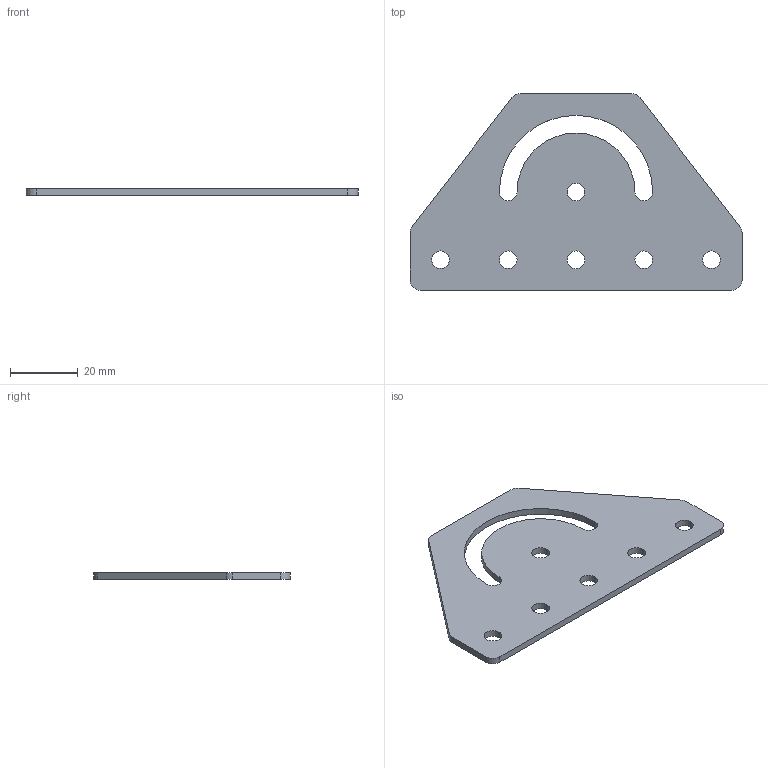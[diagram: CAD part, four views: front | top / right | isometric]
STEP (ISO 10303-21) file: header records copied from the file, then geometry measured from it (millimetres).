
FILE_DESCRIPTION (( 'STEP AP214' ), '1' );
FILE_NAME ('deg180s20.STEP', '2018-03-06T13:21:06', ( '' ), ( '' ), 'SwSTEP 2.0', 'SolidWorks 2014', '' );
FILE_SCHEMA (( 'AUTOMOTIVE_DESIGN' ));
Length unit declared in the file: millimetre
Products named in the file (2): deg180s20
Bounding box: 98 x 58 x 2 mm (x, y, z)
Volume: 7927.8 mm3; surface area: 8944 mm2
Topology: 1 solids, 1 shells, 30 faces, 84 edges, 56 vertices
Faces by surface type: cylinder 22, plane 8
Entity records: 1080 total; most frequent: DIRECTION 192, CARTESIAN_POINT 172, ORIENTED_EDGE 168, EDGE_CURVE 84, AXIS2_PLACEMENT_3D 76, VERTEX_POINT 56, CIRCLE 44, EDGE_LOOP 44
